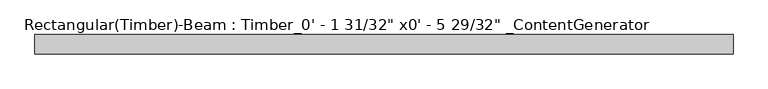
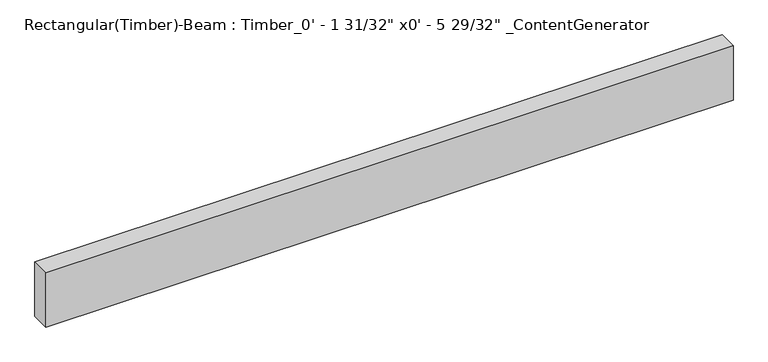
"""IFC4 building model written with IfcOpenShell, lengths in millimetres: beam geometry."""

from ifc_helpers import new_model, si_unit, frame, origin, place, context, project, spatial, polyline, outline, extrude, source, transform, mapped, element, save


def beam_7ee0b6c4(model_context):
    return source(origin(), model_context, "Body", "SweptSolid", [
        extrude(outline(polyline([(914.405, 25.4), (914.405, -25.4), (-914.405, -25.4), (-914.405, 25.4), (914.405, 25.4)])), frame((0.0, 0.0, -76.2), z_axis=(0.0, 0.0, 1.0), x_axis=(1.0, 0.0, 0.0)), (0.0, 0.0, 1.0), 152.4),
    ])


if __name__ == "__main__":
    model = new_model("IFC4")
    model_context = context("Model", 3, world=origin())
    ifc_project = project(units=[si_unit("LENGTHUNIT", "METRE", prefix="MILLI")], contexts=[model_context])
    site = spatial("IfcSite", under=ifc_project)
    building = spatial("IfcBuilding", under=site)
    placement = place(None, origin())
    beam_shape = beam_7ee0b6c4(model_context)
    element("IfcBeam", 1, ObjectType="Rectangular(Timber)-Beam : Timber_0' - 1 31/32\" x0' - 5 29/32\" _ContentGenerator", at=placement, inside=building, context=model_context, shape_type="MappedRepresentation", body=[
        mapped(beam_shape, transform((0.0, 0.0, 0.0), x_axis=(1.0, 0.0, 0.0), y_axis=(0.0, 1.0, 0.0), z_axis=(0.0, 0.0, 1.0))),
    ])
    save(model, "model.ifc")
